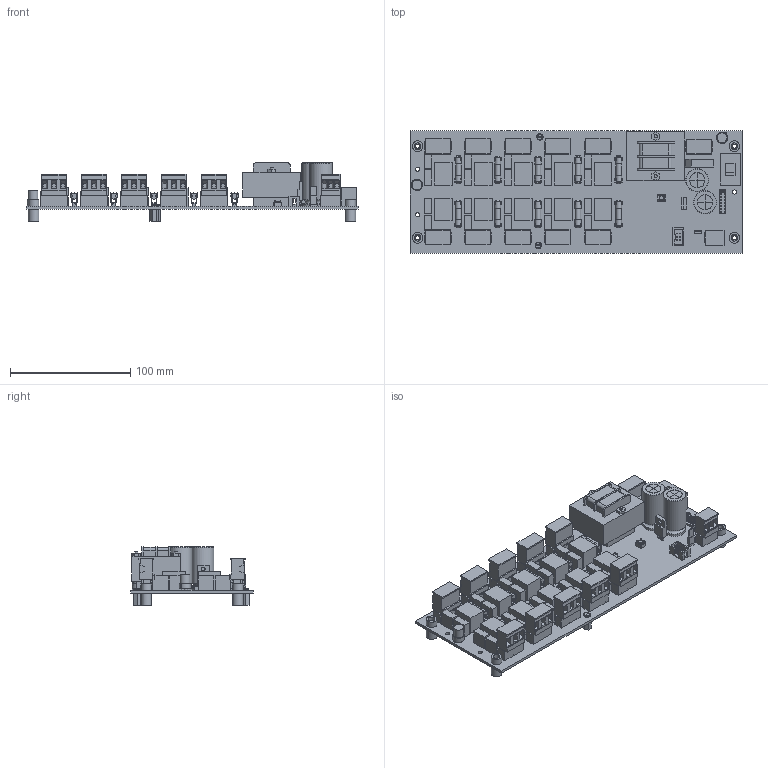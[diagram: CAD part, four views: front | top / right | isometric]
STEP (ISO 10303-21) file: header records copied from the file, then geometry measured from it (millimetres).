
FILE_DESCRIPTION((' '),'2;1');
FILE_NAME('C:\Users\mschreiber\Desktop\mcscontrols.com\Documents\MCS\Drawings\MCS-RO10.stp.step','2018-01-17T16:56:39',(' '),(' '),' ','ACIS',' ');
FILE_SCHEMA(('CONFIG_CONTROL_DESIGN'));
Length unit declared in the file: inch
Products named in the file (181): C:\Users\mschreiber\Desktop\mcscontrols.com\Documents\MCS\Drawings\MCS-RO10.stp.step; Body1; Body2; Body3; Body4; Body5; Body6; Body7; Body8; Body9; Body10; Body11; Body12; Body13; Body14; Body15; Body16; Body17; Body18; Body19; Body20; Body21; Body22; Body23; Body24; Body25; Body26; Body27; Body28; Body29; Body30; Body31; Body32; Body33; Body34; Body35; Body36; Body37; Body38; Body39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
Assembly tree (180 placements, depth 2):
  C:\Users\mschreiber\Desktop\mcscontrols.com\Documents\MCS\Drawings\MCS-RO10.stp.step
    Body1
    Body2
    Body3
    Body4
    Body5
    Body6
    Body7
    Body8
    Body9
    Body10
    Body11
    Body12
    Body13
    Body14
    Body15
    Body16
    Body17
    Body18
    Body19
    Body20
    Body21
    Body22
    Body23
    Body24
    Body25
    Body26
    Body27
    Body28
    Body29
    Body30
    Body31
    Body32
    Body33
    Body34
    Body35
    Body36
    Body37
    Body38
    Body39
    Body40
    Body41
    Body42
    Body43
    Body44
    Body45
    Body46
    Body47
    Body48
    Body49
    Body50
    Body51
    Body52
    Body53
    Body54
    Body55
    Body56
    Body57
    Body58
    Body59
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Bounding box: 276.23 x 101.6 x 48.67 mm (x, y, z)
Volume: 279089.5 mm3; surface area: 179680.6 mm2
Topology: 180 solids, 180 shells, 3762 faces, 9681 edges, 6369 vertices
Faces by surface type: plane 3165, cylinder 544, cone 37, torus 10, sphere 4, bspline 2
Full cylindrical faces by diameter (mm): 0.397 x10, 1.016 x4, 1.143 x8, 1.422 x4, 2.032 x2, 2.692 x2, 2.921 x2, 3.048 x1, 3.429 x17, 3.978 x2, 4.112 x10, 4.508 x8, 4.509 x2, 5.08 x20, 5.359 x2, 5.537 x8, 8.255 x2, 8.89 x8, 12.7 x4, 19.04 x4
Entity records: 138907 total; most frequent: CARTESIAN_POINT 21092, ORIENTED_EDGE 18944, DIRECTION 18867, EDGE_CURVE 9472, VECTOR 7847, LINE 7847, VERTEX_POINT 6329, AXIS2_PLACEMENT_3D 5510
